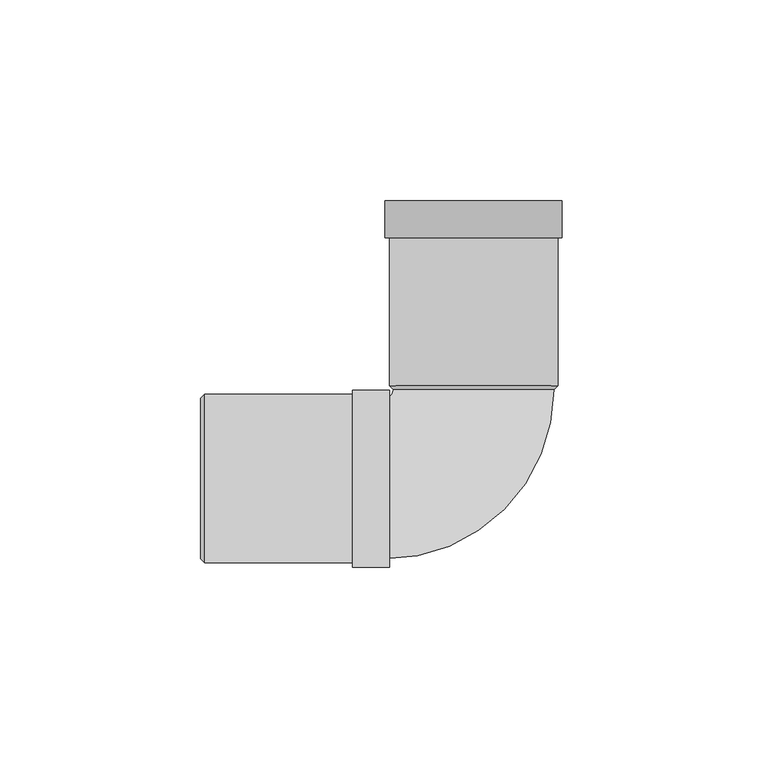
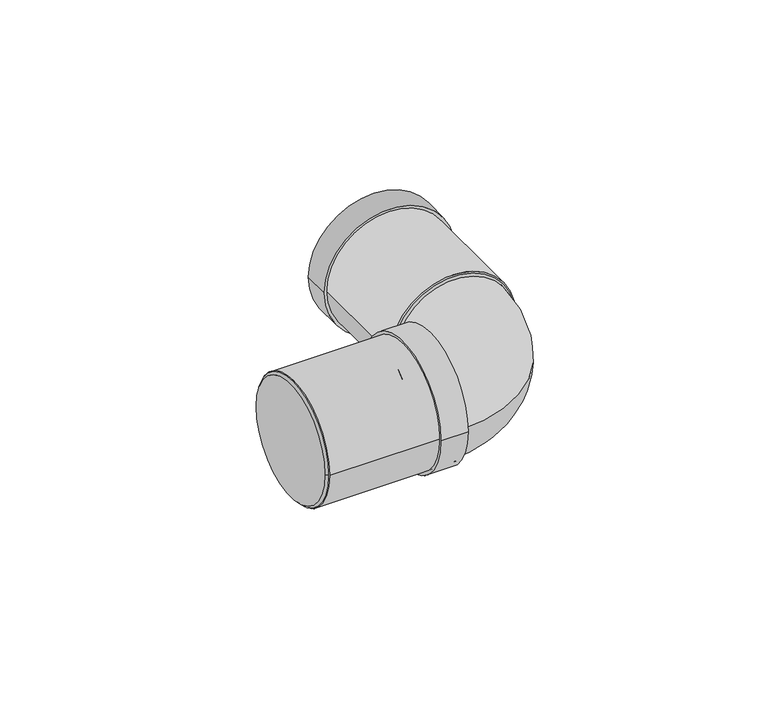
"""IFC4 building model written with IfcOpenShell, lengths in millimetres: pipe fitting geometry, Superdrain HT Bend Composite 2x45 : Superdrain HT Bend Composite 2x45."""

from ifc_helpers import new_model, si_unit, point, frame, origin, origin_2d, place, context, project, spatial, polyline, circle_curve, ellipse_curve, trimmed, segment, composite_curve, outline, extrude, source, transform, mapped, element, save
from ifc_brep_helpers import plane_surface, revolved_surface, advanced_brep


def pipe_fitting_56ec2b2d(model_context):
    return source(origin(), model_context, "Body", "SolidModel", [
        extrude(outline(composite_curve([segment(trimmed(circle_curve(origin_2d(), 21.0), [point((21.0, 0.0))], [point((-21.0, 0.0))], False, "CARTESIAN"), True, "CONTINUOUS"), segment(trimmed(circle_curve(origin_2d(), 21.0), [point((-21.0, 0.0))], [point((21.0, 0.0))], False, "CARTESIAN"), True, "CONTINUOUS")], self_intersect=False), holes=[composite_curve([segment(trimmed(circle_curve(origin_2d(), 20.0), [point((20.0, 0.0))], [point((-20.0, 0.0))], True, "CARTESIAN"), True, "CONTINUOUS"), segment(trimmed(circle_curve(origin_2d(), 20.0), [point((-20.0, 0.0))], [point((20.0, 0.0))], True, "CARTESIAN"), True, "CONTINUOUS")], self_intersect=False)]), frame((-67.0, 0.0, 0.0), z_axis=(1.0, 0.0, 0.0), x_axis=(0.0, 1.0, 0.0)), (0.0, 0.0, 1.0), 46.0),
        extrude(outline(composite_curve([segment(trimmed(circle_curve(origin_2d(), 22.05), [point((22.05, 0.0))], [point((-22.05, 0.0))], False, "CARTESIAN"), True, "CONTINUOUS"), segment(trimmed(circle_curve(origin_2d(), 22.05), [point((-22.05, 0.0))], [point((22.05, 0.0))], False, "CARTESIAN"), True, "CONTINUOUS")], self_intersect=False), holes=[composite_curve([segment(trimmed(circle_curve(origin_2d(), 20.0), [point((20.0, 0.0))], [point((-20.0, 0.0))], True, "CARTESIAN"), True, "CONTINUOUS"), segment(trimmed(circle_curve(origin_2d(), 20.0), [point((-20.0, 0.0))], [point((20.0, 0.0))], True, "CARTESIAN"), True, "CONTINUOUS")], self_intersect=False)]), frame((-30.2, 0.0, 0.0), z_axis=(1.0, 0.0, 0.0), x_axis=(0.0, 1.0, 0.0)), (0.0, 0.0, 1.0), 9.2),
        advanced_brep(
        [(-68.0, 20.0, 0.0), (-68.0, -20.0, 0.0), (-67.0, 21.0, 0.0), (-67.0, -21.0, 0.0)],
        [
            (0, 1, circle_curve(frame((-68.0, 0.0, 0.0), z_axis=(-1.0, 0.0, 0.0), x_axis=(0.0, 1.0, 0.0)), 20.0)),
            (1, 0, circle_curve(frame((-68.0, 0.0, 0.0), z_axis=(-1.0, 0.0, 0.0), x_axis=(0.0, -1.0, 0.0)), 20.0)),
            (2, 3, circle_curve(frame((-67.0, 0.0, 0.0), z_axis=(1.0, 0.0, 0.0), x_axis=(0.0, -1.0, 0.0)), 21.0)),
            (3, 2, circle_curve(frame((-67.0, 0.0, 0.0), z_axis=(1.0, 0.0, 0.0), x_axis=(0.0, 1.0, 0.0)), 21.0)),
            (3, 1),
            (0, 2),
        ],
        [
            plane_surface(frame((-68.0, 0.0, 0.0), z_axis=(-1.0, 0.0, 0.0), x_axis=(0.0, 0.0, -1.0))),
            plane_surface(frame((-67.0, 0.0, 0.0), z_axis=(1.0, 0.0, 0.0), x_axis=(0.0, 0.0, -1.0))),
            revolved_surface(polyline([(-68.0, 20.0, 0.0), (-67.0, 21.0, 0.0)]), (-88.0, 0.0, 0.0), (1.0, 0.0, 0.0)),
            revolved_surface(polyline([(-68.0, -20.0, 0.0), (-67.0, -21.0, 0.0)]), (-88.0, 0.0, 0.0), (1.0, 0.0, 0.0)),
        ],
        [
            (0, [[1, 2]]),
            (1, [[3, 4]]),
            (2, [[-4, 5, -1, 6]]),
            (3, [[-3, -6, -2, -5]]),
        ],
    ),
        advanced_brep(
        [(20.0, 22.2, 0.0), (-20.0, 22.2, 0.0), (-22.2, -20.0, 0.0), (-22.2, 20.0, 0.0)],
        [
            (0, 1, circle_curve(frame((0.0, 22.2, 0.0), z_axis=(0.0, 1.0, 0.0), x_axis=(-1.0, 0.0, 0.0)), 20.0)),
            (1, 0, circle_curve(frame((0.0, 22.2, 0.0), z_axis=(0.0, 1.0, 0.0), x_axis=(-1.0, 0.0, 0.0)), 20.0)),
            (2, 3, circle_curve(frame((-22.2, 0.0, 0.0), z_axis=(-1.0, 0.0, 0.0), x_axis=(0.0, 1.0, 0.0)), 20.0)),
            (3, 2, circle_curve(frame((-22.2, 0.0, 0.0), z_axis=(-1.0, 0.0, 0.0), x_axis=(0.0, 1.0, 0.0)), 20.0)),
            (3, 1, circle_curve(frame((-22.2, 22.2, 0.0), z_axis=(0.0, 0.0, 1.0), x_axis=(1.0, 0.0, 0.0)), 2.2)),
            (0, 2, circle_curve(frame((-22.2, 22.2, 0.0), z_axis=(0.0, 0.0, -1.0), x_axis=(1.0, 0.0, 0.0)), 42.2)),
        ],
        [
            plane_surface(frame((0.0, 22.2, 0.0), z_axis=(0.0, 1.0, 0.0), x_axis=(0.0, 0.0, -1.0))),
            plane_surface(frame((-22.2, 0.0, 0.0), z_axis=(-1.0, 0.0, 0.0), x_axis=(0.0, 0.0, -1.0))),
            revolved_surface(trimmed(ellipse_curve(frame((0.0, 22.2, 0.0), z_axis=(0.0, -1.0, 0.0), x_axis=(-1.0, 0.0, 0.0)), 20.0, 20.0), [point((-20.0, 22.2, 0.0))], [point((20.0, 22.2, 0.0))], True, "CARTESIAN"), (-22.2, 22.2, 0.0), (0.0, 0.0, 1.0)),
            revolved_surface(trimmed(ellipse_curve(frame((0.0, 22.2, 0.0), z_axis=(0.0, -1.0, 0.0), x_axis=(-1.0, 0.0, 0.0)), 20.0, 20.0), [point((20.0, 22.2, 0.0))], [point((-20.0, 22.2, 0.0))], True, "CARTESIAN"), (-22.2, 22.2, 0.0), (0.0, 0.0, 1.0)),
        ],
        [
            (0, [[1, 2]]),
            (1, [[3, 4]]),
            (2, [[-4, 5, -1, 6]]),
            (3, [[-3, -6, -2, -5]]),
        ],
    ),
        extrude(outline(composite_curve([segment(trimmed(circle_curve(origin_2d(), 21.0), [point((0.0, 21.0))], [point((0.0, -21.0))], False, "CARTESIAN"), True, "CONTINUOUS"), segment(trimmed(circle_curve(origin_2d(), 21.0), [point((0.0, -21.0))], [point((0.0, 21.0))], False, "CARTESIAN"), True, "CONTINUOUS")], self_intersect=False), holes=[composite_curve([segment(trimmed(circle_curve(origin_2d(), 20.0), [point((0.0, 20.0))], [point((0.0, -20.0))], True, "CARTESIAN"), True, "CONTINUOUS"), segment(trimmed(circle_curve(origin_2d(), 20.0), [point((0.0, -20.0))], [point((0.0, 20.0))], True, "CARTESIAN"), True, "CONTINUOUS")], self_intersect=False)]), frame((0.0, 23.2, 0.0), z_axis=(0.0, 1.0, 0.0), x_axis=(0.0, 0.0, 1.0)), (0.0, 0.0, 1.0), 46.0),
        extrude(outline(composite_curve([segment(trimmed(circle_curve(origin_2d(), 22.05), [point((0.0, -22.05))], [point((0.0, 22.05))], False, "CARTESIAN"), True, "CONTINUOUS"), segment(trimmed(circle_curve(origin_2d(), 22.05), [point((0.0, 22.05))], [point((0.0, -22.05))], False, "CARTESIAN"), True, "CONTINUOUS")], self_intersect=False), holes=[composite_curve([segment(trimmed(circle_curve(origin_2d(), 20.0), [point((0.0, -20.0))], [point((0.0, 20.0))], True, "CARTESIAN"), True, "CONTINUOUS"), segment(trimmed(circle_curve(origin_2d(), 20.0), [point((0.0, 20.0))], [point((0.0, -20.0))], True, "CARTESIAN"), True, "CONTINUOUS")], self_intersect=False)]), frame((0.0, 60.0, 0.0), z_axis=(0.0, 1.0, 0.0), x_axis=(0.0, 0.0, 1.0)), (0.0, 0.0, 1.0), 9.2),
        advanced_brep(
        [(21.0, 23.2, 0.0), (-21.0, 23.2, 0.0), (20.0, 22.2, 0.0), (-20.0, 22.2, 0.0)],
        [
            (0, 1, circle_curve(frame((0.0, 23.2, 0.0), z_axis=(0.0, 1.0, 0.0), x_axis=(1.0, 0.0, 0.0)), 21.0)),
            (1, 0, circle_curve(frame((0.0, 23.2, 0.0), z_axis=(0.0, 1.0, 0.0), x_axis=(-1.0, 0.0, 0.0)), 21.0)),
            (2, 3, circle_curve(frame((0.0, 22.2, 0.0), z_axis=(0.0, -1.0, 0.0), x_axis=(-1.0, 0.0, 0.0)), 20.0)),
            (3, 2, circle_curve(frame((0.0, 22.2, 0.0), z_axis=(0.0, -1.0, 0.0), x_axis=(1.0, 0.0, 0.0)), 20.0)),
            (3, 1),
            (0, 2),
        ],
        [
            plane_surface(frame((0.0, 23.2, 0.0), z_axis=(0.0, 1.0, 0.0), x_axis=(0.0, 0.0, -1.0))),
            plane_surface(frame((0.0, 22.2, 0.0), z_axis=(0.0, -1.0, 0.0), x_axis=(0.0, 0.0, -1.0))),
            revolved_surface(polyline([(-20.0, 22.2, 0.0), (-21.0, 23.2, 0.0)]), (0.0, 2.2, 0.0), (0.0, 1.0, 0.0)),
            revolved_surface(polyline([(20.0, 22.2, 0.0), (21.0, 23.2, 0.0)]), (0.0, 2.2, 0.0), (0.0, 1.0, 0.0)),
        ],
        [
            (0, [[1, 2]]),
            (1, [[3, 4]]),
            (2, [[-4, 5, -1, 6]]),
            (3, [[-3, -6, -2, -5]]),
        ],
    ),
        extrude(outline(composite_curve([segment(trimmed(circle_curve(origin_2d(), 20.0), [point((-20.0, 0.0))], [point((20.0, 0.0))], False, "CARTESIAN"), True, "CONTINUOUS"), segment(trimmed(circle_curve(origin_2d(), 20.0), [point((20.0, 0.0))], [point((-20.0, 0.0))], False, "CARTESIAN"), True, "CONTINUOUS")], self_intersect=False)), frame((-67.0, 0.0, 0.0), z_axis=(1.0, 0.0, 0.0), x_axis=(0.0, 1.0, 0.0)), (0.0, 0.0, 1.0), 44.8),
    ])


if __name__ == "__main__":
    model = new_model("IFC4")
    model_context = context("Model", 3, world=origin())
    ifc_project = project(units=[si_unit("LENGTHUNIT", "METRE", prefix="MILLI")], contexts=[model_context])
    site = spatial("IfcSite", under=ifc_project)
    building = spatial("IfcBuilding", under=site)
    placement = place(None, origin())
    pipe_fitting_shape = pipe_fitting_56ec2b2d(model_context)
    element("IfcPipeFitting", 1, ObjectType="Superdrain HT Bend Composite 2x45 : Superdrain HT Bend Composite 2x45", at=placement, inside=building, context=model_context, shape_type="MappedRepresentation", body=[
        mapped(pipe_fitting_shape, transform((0.0, 0.0, 0.0), x_axis=(1.0, 0.0, 0.0), y_axis=(0.0, 1.0, 0.0), z_axis=(0.0, 0.0, 1.0))),
    ])
    save(model, "model.ifc")
